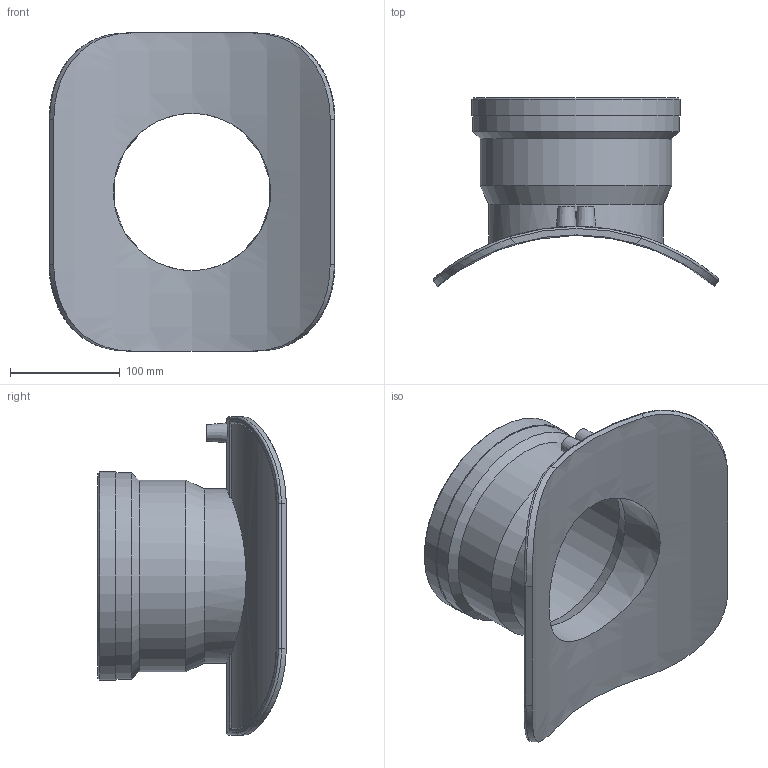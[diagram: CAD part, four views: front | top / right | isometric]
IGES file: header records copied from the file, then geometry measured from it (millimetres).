
Global section: file name: 5758BPV4220060.ipt; native system: Autodesk Inventor 2019; preprocessor: unknown; author: 12HКирилл; date: 20210830.100831; units: inch
Bounding box: 260.01 x 171.46 x 289.56 mm (x, y, z)
Volume: 1049588.1 mm3; surface area: 272338.9 mm2
Topology: 1 solids, 1 shells, 69 faces, 166 edges, 107 vertices
Faces by surface type: cylinder 22, revolution 20, plane 13, bspline 8, cone 6
Full cylindrical faces by diameter (mm): 4 x2, 158.636 x1, 159.1 x1, 174.546 x1, 188.092 x1, 189.992 x1
